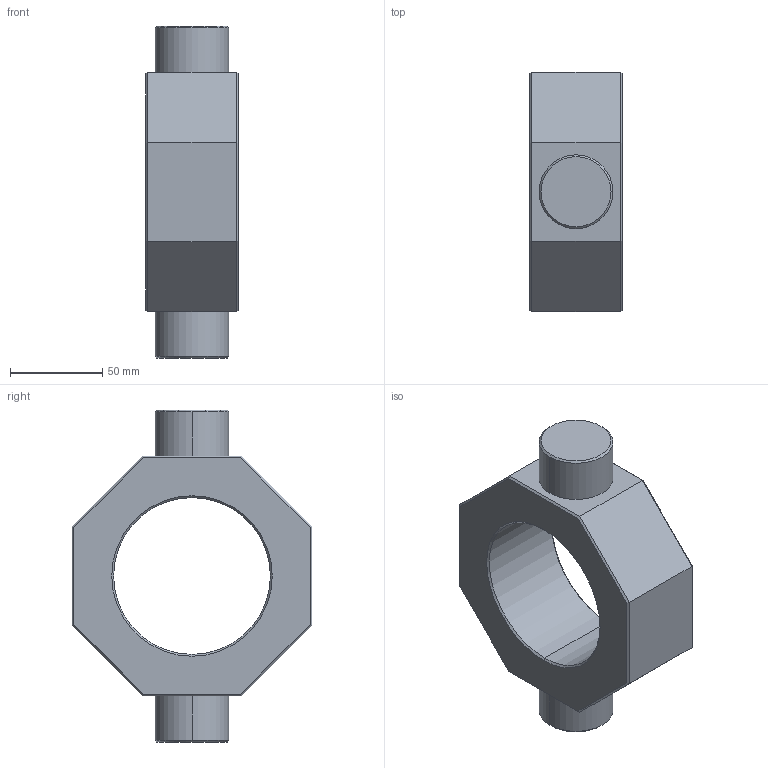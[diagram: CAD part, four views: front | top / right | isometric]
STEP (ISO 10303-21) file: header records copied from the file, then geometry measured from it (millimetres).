
FILE_DESCRIPTION (( 'STEP AP214' ), '1' );
FILE_NAME ('LB-KA-85.STEP', '2025-04-08T13:14:16', ( '' ), ( '' ), 'SwSTEP 2.0', 'SolidWorks 2023', '' );
FILE_SCHEMA (( 'AUTOMOTIVE_DESIGN' ));
Length unit declared in the file: millimetre
Products named in the file (1): LB-KA-85
Bounding box: 50 x 130 x 180 mm (x, y, z)
Volume: 469973.4 mm3; surface area: 60612.7 mm2
Topology: 1 solids, 1 shells, 78 faces, 174 edges, 94 vertices
Faces by surface type: cone 32, plane 28, cylinder 18
Entity records: 2053 total; most frequent: DIRECTION 376, CARTESIAN_POINT 335, ORIENTED_EDGE 324, EDGE_CURVE 162, AXIS2_PLACEMENT_3D 135, LINE 106, VECTOR 106, VERTEX_POINT 94
